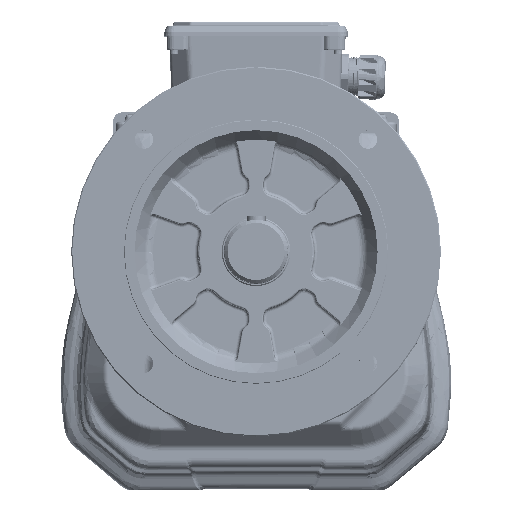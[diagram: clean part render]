
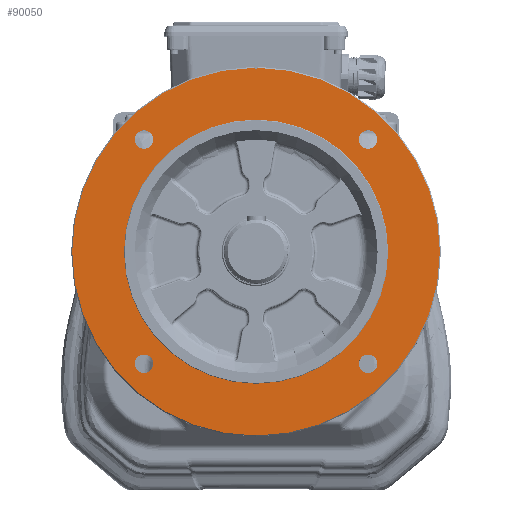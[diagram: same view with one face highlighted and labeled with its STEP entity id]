
A CAD part, top view. The second image highlights one B-rep face of the part: STEP entity #90050.
In plain terms, the highlighted planar face has unit normal (0, 0, 1).
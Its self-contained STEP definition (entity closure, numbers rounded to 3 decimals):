
#4755 = DIRECTION ( 'NONE',  ( 1., 0., 0. ) ) ;
#11235 = CARTESIAN_POINT ( 'NONE',  ( 114.816, -106.066, 322. ) ) ;
#13765 = ORIENTED_EDGE ( 'NONE', *, *, #449872, .T. ) ;
#13814 = AXIS2_PLACEMENT_3D ( 'NONE', #75938, #151246, #290671 ) ;
#16959 = DIRECTION ( 'NONE',  ( 0., 0., -1. ) ) ;
#17275 = ORIENTED_EDGE ( 'NONE', *, *, #30947, .T. ) ;
#17783 = DIRECTION ( 'NONE',  ( 0., 0., -1. ) ) ;
#22470 = EDGE_CURVE ( 'NONE', #310041, #390119, #173538, .T. ) ;
#26333 = AXIS2_PLACEMENT_3D ( 'NONE', #216316, #385661, #280401 ) ;
#27745 = EDGE_CURVE ( 'NONE', #194569, #165105, #387321, .T. ) ;
#29752 = EDGE_CURVE ( 'NONE', #298179, #334481, #212278, .T. ) ;
#29932 = DIRECTION ( 'NONE',  ( 1., 0., 0. ) ) ;
#30418 = CARTESIAN_POINT ( 'NONE',  ( 0., 0., 322. ) ) ;
#30684 = DIRECTION ( 'NONE',  ( 0., 0., -1. ) ) ;
#30947 = EDGE_CURVE ( 'NONE', #53902, #65127, #410453, .T. ) ;
#32193 = CARTESIAN_POINT ( 'NONE',  ( -106.066, 106.066, 322. ) ) ;
#34449 = DIRECTION ( 'NONE',  ( 0., 0., -1. ) ) ;
#36240 = DIRECTION ( 'NONE',  ( 0., 0., -1. ) ) ;
#37417 = CARTESIAN_POINT ( 'NONE',  ( 1.675, 173.992, 322. ) ) ;
#38666 = CIRCLE ( 'NONE', #264715, 8.75 ) ;
#38809 = ORIENTED_EDGE ( 'NONE', *, *, #131291, .F. ) ;
#47576 = DIRECTION ( 'NONE',  ( 1., 0., 0. ) ) ;
#47997 = CARTESIAN_POINT ( 'NONE',  ( -125., 0., 322. ) ) ;
#49227 = EDGE_CURVE ( 'NONE', #355915, #239319, #72792, .T. ) ;
#51176 = ORIENTED_EDGE ( 'NONE', *, *, #178831, .T. ) ;
#53902 = VERTEX_POINT ( 'NONE', #286457 ) ;
#58548 = DIRECTION ( 'NONE',  ( 0., 0., -1. ) ) ;
#61868 = AXIS2_PLACEMENT_3D ( 'NONE', #30418, #242944, #135510 ) ;
#63116 = CARTESIAN_POINT ( 'NONE',  ( 0., 0., 322. ) ) ;
#65127 = VERTEX_POINT ( 'NONE', #253957 ) ;
#66953 = AXIS2_PLACEMENT_3D ( 'NONE', #32193, #34449, #29932 ) ;
#67935 = ORIENTED_EDGE ( 'NONE', *, *, #266768, .F. ) ;
#70517 = FACE_BOUND ( 'NONE', #103357, .T. ) ;
#72792 = CIRCLE ( 'NONE', #233648, 8.75 ) ;
#72825 = CARTESIAN_POINT ( 'NONE',  ( -2.5, 174.982, 322. ) ) ;
#75938 = CARTESIAN_POINT ( 'NONE',  ( 0., 0., 322. ) ) ;
#80079 = DIRECTION ( 'NONE',  ( 0., 0., 1. ) ) ;
#85043 = CARTESIAN_POINT ( 'NONE',  ( -97.316, 106.066, 322. ) ) ;
#90050 = ADVANCED_FACE ( 'NONE', ( #70517, #171192, #145859, #310587, #136818, #141369 ), #452344, .F. ) ;
#91458 = EDGE_CURVE ( 'NONE', #255640, #324759, #413756, .T. ) ;
#95724 = DIRECTION ( 'NONE',  ( 0., 0., 1. ) ) ;
#100237 = CARTESIAN_POINT ( 'NONE',  ( 0., 0., 322. ) ) ;
#103357 = EDGE_LOOP ( 'NONE', ( #131444, #13765 ) ) ;
#106592 = CIRCLE ( 'NONE', #26333, 8.75 ) ;
#107776 = CARTESIAN_POINT ( 'NONE',  ( -1.675, 173.992, 322. ) ) ;
#113108 = DIRECTION ( 'NONE',  ( 1., 0., 0. ) ) ;
#117553 = CARTESIAN_POINT ( 'NONE',  ( -106.066, -106.066, 322. ) ) ;
#130395 = CIRCLE ( 'NONE', #181687, 8.75 ) ;
#131291 = EDGE_CURVE ( 'NONE', #390119, #310041, #331525, .T. ) ;
#131444 = ORIENTED_EDGE ( 'NONE', *, *, #27745, .T. ) ;
#135510 = DIRECTION ( 'NONE',  ( -1., 0., 0. ) ) ;
#135763 = CARTESIAN_POINT ( 'NONE',  ( 106.066, -106.066, 322. ) ) ;
#136818 = FACE_BOUND ( 'NONE', #398549, .T. ) ;
#141369 = FACE_OUTER_BOUND ( 'NONE', #379574, .T. ) ;
#145859 = FACE_BOUND ( 'NONE', #229911, .T. ) ;
#147935 = CARTESIAN_POINT ( 'NONE',  ( -114.816, 106.066, 322. ) ) ;
#148687 = CARTESIAN_POINT ( 'NONE',  ( 0., 0., 322. ) ) ;
#151246 = DIRECTION ( 'NONE',  ( 0., 0., -1. ) ) ;
#154347 = CARTESIAN_POINT ( 'NONE',  ( 125., 0., 322. ) ) ;
#155093 = ORIENTED_EDGE ( 'NONE', *, *, #29752, .T. ) ;
#158369 = DIRECTION ( 'NONE',  ( 0., 0., -1. ) ) ;
#165105 = VERTEX_POINT ( 'NONE', #147935 ) ;
#169004 = EDGE_CURVE ( 'NONE', #425576, #298179, #253194, .T. ) ;
#169127 = CIRCLE ( 'NONE', #66953, 8.75 ) ;
#171192 = FACE_BOUND ( 'NONE', #321415, .T. ) ;
#173538 = CIRCLE ( 'NONE', #231886, 125. ) ;
#178015 = DIRECTION ( 'NONE',  ( -0.64, 0.768, 0. ) ) ;
#178831 = EDGE_CURVE ( 'NONE', #405655, #325397, #130395, .T. ) ;
#181687 = AXIS2_PLACEMENT_3D ( 'NONE', #117553, #16959, #113108 ) ;
#189181 = CIRCLE ( 'NONE', #349815, 8.75 ) ;
#193815 = CARTESIAN_POINT ( 'NONE',  ( 106.066, 106.066, 322. ) ) ;
#194569 = VERTEX_POINT ( 'NONE', #85043 ) ;
#194954 = CARTESIAN_POINT ( 'NONE',  ( -106.066, 106.066, 322. ) ) ;
#197212 = CARTESIAN_POINT ( 'NONE',  ( 0., 171.982, 322. ) ) ;
#197610 = AXIS2_PLACEMENT_3D ( 'NONE', #406108, #58548, #337504 ) ;
#203226 = EDGE_LOOP ( 'NONE', ( #284312, #17275 ) ) ;
#209975 = CARTESIAN_POINT ( 'NONE',  ( 0., 125., 322. ) ) ;
#212278 = LINE ( 'NONE', #72825, #336958 ) ;
#216316 = CARTESIAN_POINT ( 'NONE',  ( 106.066, -106.066, 322. ) ) ;
#222988 = EDGE_CURVE ( 'NONE', #325397, #405655, #189181, .T. ) ;
#223748 = AXIS2_PLACEMENT_3D ( 'NONE', #63116, #307706, #344345 ) ;
#224700 = DIRECTION ( 'NONE',  ( 1., 0., 0. ) ) ;
#229911 = EDGE_LOOP ( 'NONE', ( #329947, #398502 ) ) ;
#231512 = DIRECTION ( 'NONE',  ( 0., 0., -1. ) ) ;
#231886 = AXIS2_PLACEMENT_3D ( 'NONE', #148687, #80079, #4755 ) ;
#233648 = AXIS2_PLACEMENT_3D ( 'NONE', #135763, #30684, #275192 ) ;
#239319 = VERTEX_POINT ( 'NONE', #11235 ) ;
#242093 = CARTESIAN_POINT ( 'NONE',  ( -97.316, -106.066, 322. ) ) ;
#242944 = DIRECTION ( 'NONE',  ( 0., 0., -1. ) ) ;
#248720 = DIRECTION ( 'NONE',  ( -0.64, -0.768, 0. ) ) ;
#250712 = EDGE_CURVE ( 'NONE', #425576, #255640, #339318, .T. ) ;
#253194 = LINE ( 'NONE', #351736, #431741 ) ;
#253957 = CARTESIAN_POINT ( 'NONE',  ( 114.816, 106.066, 322. ) ) ;
#255640 = VERTEX_POINT ( 'NONE', #441317 ) ;
#261263 = CARTESIAN_POINT ( 'NONE',  ( -106.066, -106.066, 322. ) ) ;
#264715 = AXIS2_PLACEMENT_3D ( 'NONE', #193815, #17783, #47576 ) ;
#266768 = EDGE_CURVE ( 'NONE', #324759, #334481, #393437, .T. ) ;
#275192 = DIRECTION ( 'NONE',  ( 1., 0., 0. ) ) ;
#275990 = ORIENTED_EDGE ( 'NONE', *, *, #222988, .T. ) ;
#280401 = DIRECTION ( 'NONE',  ( 1., 0., 0. ) ) ;
#280781 = DIRECTION ( 'NONE',  ( -1., 0., 0. ) ) ;
#284312 = ORIENTED_EDGE ( 'NONE', *, *, #372374, .T. ) ;
#286457 = CARTESIAN_POINT ( 'NONE',  ( 97.316, 106.066, 322. ) ) ;
#290671 = DIRECTION ( 'NONE',  ( -1., 0., 0. ) ) ;
#294951 = ORIENTED_EDGE ( 'NONE', *, *, #91458, .F. ) ;
#298179 = VERTEX_POINT ( 'NONE', #197212 ) ;
#302477 = AXIS2_PLACEMENT_3D ( 'NONE', #100237, #95724, #417992 ) ;
#307706 = DIRECTION ( 'NONE',  ( 0., 0., -1. ) ) ;
#310041 = VERTEX_POINT ( 'NONE', #154347 ) ;
#310587 = FACE_BOUND ( 'NONE', #203226, .T. ) ;
#321415 = EDGE_LOOP ( 'NONE', ( #51176, #275990 ) ) ;
#324759 = VERTEX_POINT ( 'NONE', #404338 ) ;
#325397 = VERTEX_POINT ( 'NONE', #445987 ) ;
#329947 = ORIENTED_EDGE ( 'NONE', *, *, #367349, .T. ) ;
#331525 = CIRCLE ( 'NONE', #302477, 125. ) ;
#332314 = ORIENTED_EDGE ( 'NONE', *, *, #22470, .F. ) ;
#334481 = VERTEX_POINT ( 'NONE', #107776 ) ;
#336958 = VECTOR ( 'NONE', #178015, 1000. ) ;
#337504 = DIRECTION ( 'NONE',  ( 1., 0., 0. ) ) ;
#339318 = CIRCLE ( 'NONE', #61868, 174. ) ;
#344345 = DIRECTION ( 'NONE',  ( -1., 0., 0. ) ) ;
#349534 = AXIS2_PLACEMENT_3D ( 'NONE', #209975, #36240, #280781 ) ;
#349815 = AXIS2_PLACEMENT_3D ( 'NONE', #261263, #231512, #371024 ) ;
#351736 = CARTESIAN_POINT ( 'NONE',  ( 0., 171.982, 322. ) ) ;
#355915 = VERTEX_POINT ( 'NONE', #412527 ) ;
#367349 = EDGE_CURVE ( 'NONE', #239319, #355915, #106592, .T. ) ;
#371024 = DIRECTION ( 'NONE',  ( 1., 0., 0. ) ) ;
#372374 = EDGE_CURVE ( 'NONE', #65127, #53902, #38666, .T. ) ;
#379574 = EDGE_LOOP ( 'NONE', ( #155093, #67935, #294951, #438244, #396744 ) ) ;
#385661 = DIRECTION ( 'NONE',  ( 0., 0., -1. ) ) ;
#387321 = CIRCLE ( 'NONE', #445673, 8.75 ) ;
#390119 = VERTEX_POINT ( 'NONE', #47997 ) ;
#393437 = CIRCLE ( 'NONE', #13814, 174. ) ;
#396744 = ORIENTED_EDGE ( 'NONE', *, *, #169004, .T. ) ;
#398502 = ORIENTED_EDGE ( 'NONE', *, *, #49227, .T. ) ;
#398549 = EDGE_LOOP ( 'NONE', ( #332314, #38809 ) ) ;
#404338 = CARTESIAN_POINT ( 'NONE',  ( -174., 0., 322. ) ) ;
#405655 = VERTEX_POINT ( 'NONE', #242093 ) ;
#406108 = CARTESIAN_POINT ( 'NONE',  ( 106.066, 106.066, 322. ) ) ;
#410453 = CIRCLE ( 'NONE', #197610, 8.75 ) ;
#412527 = CARTESIAN_POINT ( 'NONE',  ( 97.316, -106.066, 322. ) ) ;
#413756 = CIRCLE ( 'NONE', #223748, 174. ) ;
#417992 = DIRECTION ( 'NONE',  ( 1., 0., 0. ) ) ;
#425576 = VERTEX_POINT ( 'NONE', #37417 ) ;
#431741 = VECTOR ( 'NONE', #248720, 1000. ) ;
#438244 = ORIENTED_EDGE ( 'NONE', *, *, #250712, .F. ) ;
#441317 = CARTESIAN_POINT ( 'NONE',  ( 174., 0., 322. ) ) ;
#445673 = AXIS2_PLACEMENT_3D ( 'NONE', #194954, #158369, #224700 ) ;
#445987 = CARTESIAN_POINT ( 'NONE',  ( -114.816, -106.066, 322. ) ) ;
#449872 = EDGE_CURVE ( 'NONE', #165105, #194569, #169127, .T. ) ;
#452344 = PLANE ( 'NONE',  #349534 ) ;
